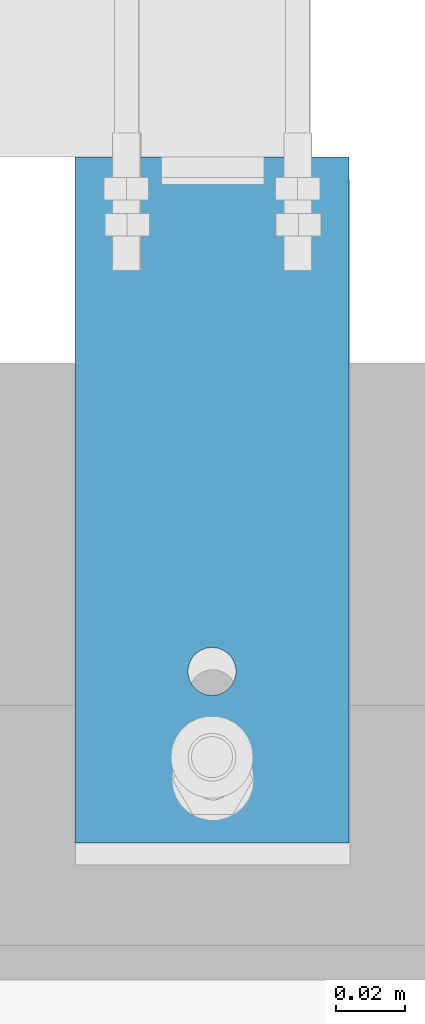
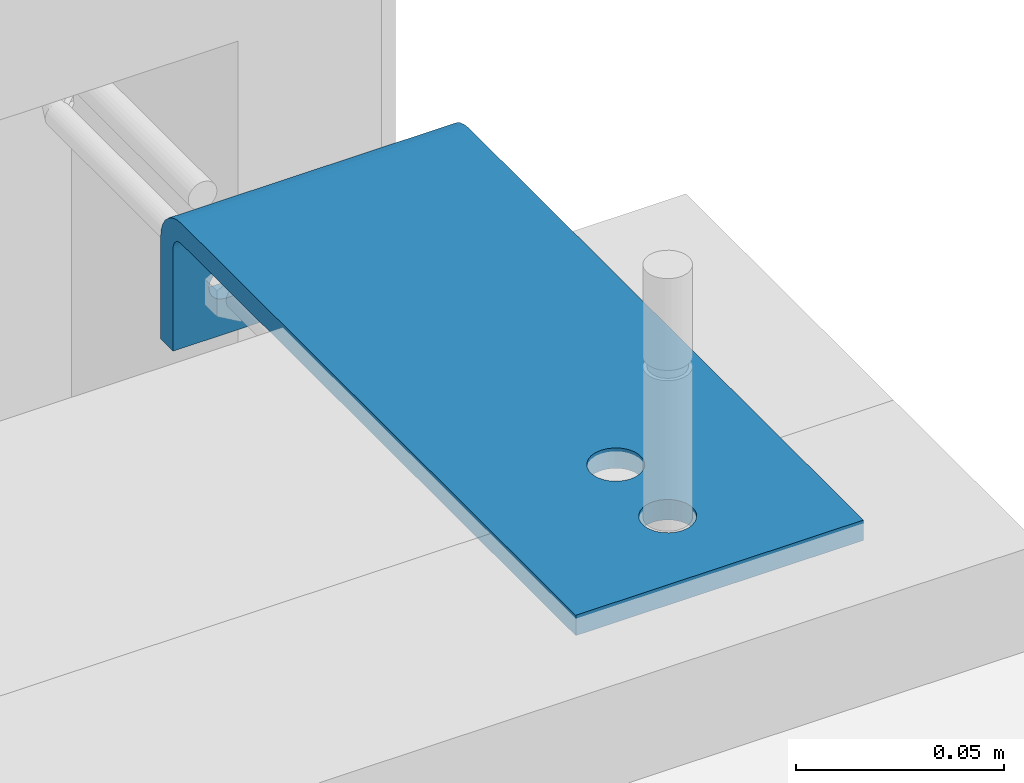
# One storey, part 11 of 13: 1 assembly, 4 openings.
"""IFC2X3 building model written with IfcOpenShell, lengths in metres."""

from ifc_helpers import new_model, entity, si_unit, converted_unit, derived_unit, direction, frame, frame_2d, origin, place, context, subcontext, project, spatial, polyline, circle_curve, parameter, trimmed, segment, composite_curve, circle, outline, extrude, source, transform, mapped, material, type_object, type_shapes, element, save


model = new_model("IFC2X3")

# Units and contexts
model_context = context("Model", 3, precision=1e-05, world=origin(), true_north=direction((6.123031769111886e-17, 1.0)))
body_context = subcontext(model_context, "Body", "Model", "MODEL_VIEW")
ifc_project = project(units=[si_unit("LENGTHUNIT", "METRE"), si_unit("AREAUNIT", "SQUARE_METRE"), converted_unit("PLANEANGLEUNIT", "DEGREE", entity("IfcPlaneAngleMeasure", 0.017453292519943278), si_unit("PLANEANGLEUNIT", "RADIAN"), dimensions=[0, 0, 0, 0, 0, 0, 0]), si_unit("VOLUMEUNIT", "CUBIC_METRE"), derived_unit("THERMALTRANSMITTANCEUNIT", [(si_unit("MASSUNIT", "GRAM", prefix="KILO"), 1), (si_unit("THERMODYNAMICTEMPERATUREUNIT", "KELVIN"), -1), (si_unit("TIMEUNIT", "SECOND"), -3)]), derived_unit("USERDEFINED", [(si_unit("MASSUNIT", "GRAM", prefix="KILO"), 1), (si_unit("THERMODYNAMICTEMPERATUREUNIT", "KELVIN"), -1), (si_unit("TIMEUNIT", "SECOND"), -2)]), derived_unit("THERMALRESISTANCEUNIT", [(si_unit("MASSUNIT", "GRAM", prefix="KILO"), -1), (si_unit("TIMEUNIT", "SECOND"), 3), (si_unit("THERMODYNAMICTEMPERATUREUNIT", "KELVIN"), 1)]), derived_unit("MASSDENSITYUNIT", [(si_unit("MASSUNIT", "GRAM", prefix="KILO"), 1), (si_unit("LENGTHUNIT", "METRE"), -3)]), derived_unit("VAPORPERMEABILITYUNIT", [(si_unit("LENGTHUNIT", "METRE"), -1), (si_unit("TIMEUNIT", "SECOND"), 1)]), derived_unit("USERDEFINED", [(si_unit("MASSUNIT", "GRAM", prefix="KILO"), 1), (si_unit("TIMEUNIT", "SECOND"), -3), (si_unit("LENGTHUNIT", "METRE"), 3), (si_unit("ELECTRICCURRENTUNIT", "AMPERE"), -2)]), si_unit("PRESSUREUNIT", "PASCAL")], contexts=[model_context])

# Site, building, storey
site_placement = place(None, origin())
site = spatial("IfcSite", under=ifc_project, at=site_placement, Name="Default", CompositionType="ELEMENT")
building_placement = place(site_placement, origin())
building = spatial("IfcBuilding", under=site, at=building_placement, CompositionType="ELEMENT")
storey_placement = place(building_placement, origin())
storey = spatial("IfcBuildingStorey", under=building, at=storey_placement, Name="L0", CompositionType="ELEMENT", Elevation=0.0)

# Assembly, openings
ifc_material = material(Name="REC_Acero, S 275JR (Zincado)")
type_product = type_object("IfcTypeProduct", Name="REC-PA200406R:PA200406R", material=ifc_material)
shared_shape = source(origin(), body_context, "Body", "SweptSolid", [
    extrude(outline(composite_curve([segment(polyline([(0.04400000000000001, -0.008), (-0.14600000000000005, -0.008)]), True, "CONTINUOUS"), segment(polyline([(-0.14600000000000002, -0.008), (-0.14600000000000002, -0.013999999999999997)]), True, "CONTINUOUS"), segment(polyline([(-0.14600000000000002, -0.013999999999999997), (0.044000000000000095, -0.014)]), True, "CONTINUOUS"), segment(trimmed(circle_curve(frame_2d((0.04400000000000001, -0.004), x_axis=(1.0, 0.0)), 0.01), [parameter(269.9999999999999)], [parameter(0.0)], True, "PARAMETER"), True, "CONTINUOUS"), segment(polyline([(0.05400000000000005, -0.003999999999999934), (0.05400000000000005, 0.02599999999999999)]), True, "CONTINUOUS"), segment(polyline([(0.05400000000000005, 0.02599999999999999), (0.04799999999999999, 0.02599999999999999)]), True, "CONTINUOUS"), segment(polyline([(0.04799999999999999, 0.02599999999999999), (0.048000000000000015, -0.003999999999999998)]), True, "CONTINUOUS"), segment(trimmed(circle_curve(frame_2d((0.04400000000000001, -0.004), x_axis=(1.0, 0.0)), 0.004), [parameter(270.00000000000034)], [parameter(3.5622212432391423e-13)], True, "PARAMETER"), False, "CONTINUOUS")], self_intersect=False)), frame((-0.04000000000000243, -0.14600000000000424, 0.013999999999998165), z_axis=(-1.0, 0.0, 0.0), x_axis=(0.0, -1.0, 0.0)), (0.0, 0.0, -1.0), 0.08000000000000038),
])
type_shapes(type_product, [shared_shape])
assembly_placement = place(storey_placement, frame((7.8162475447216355, 15.794530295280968, 2.719999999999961), z_axis=(0.0, 0.0, -1.0), x_axis=(1.0, 0.0, 0.0)))
assembly = element("IfcElementAssembly", 1, at=assembly_placement, inside=storey, type_object=type_product, material=ifc_material, Name="REC-PA200406R:PA200406R", ObjectType="REC-PA200406R:PA200406R", AssemblyPlace="NOTDEFINED", PredefinedType="NOTDEFINED", context=body_context, shape_type="MappedRepresentation", body=[
    mapped(shared_shape, transform((0.0, 0.0, 0.0), scale=1.0)),
])
opening_1_placement = place(storey_placement, frame((7.8162475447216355, 15.794530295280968, 2.719999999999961)))
element("IfcOpeningElement", 2, at=opening_1_placement, cuts=assembly, Name="REC-PA200406R:PA200406R:1", ObjectType="Opening", context=body_context, shape_type="SweptSolid", body=[
    extrude(outline(composite_curve([segment(trimmed(circle_curve(frame_2d((0.0, -0.002999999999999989), x_axis=(1.0, 0.0)), 0.0045000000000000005), [parameter(180.00000000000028)], [parameter(4.0711099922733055e-13)], True, "PARAMETER"), True, "CONTINUOUS"), segment(polyline([(0.004500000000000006, -0.0029999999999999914), (0.004499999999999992, 0.0030000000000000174)]), True, "CONTINUOUS"), segment(trimmed(circle_curve(frame_2d((0.0, 0.0030000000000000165), x_axis=(1.0, 0.0)), 0.0045000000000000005), [parameter(0.0)], [parameter(179.99999999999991)], True, "PARAMETER"), True, "CONTINUOUS"), segment(polyline([(-0.004500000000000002, 0.0030000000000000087), (-0.004499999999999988, -0.0029999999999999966)]), True, "CONTINUOUS")], self_intersect=False)), frame((0.022499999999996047, 0.20000000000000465, -0.02499999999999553), z_axis=(0.0, -1.0, 0.0), x_axis=(0.0, 0.0, -1.0)), (0.0, 0.0, 1.0), 0.006000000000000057),
])
opening_2_placement = place(storey_placement, frame((7.8162475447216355, 15.794530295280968, 2.719999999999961)))
element("IfcOpeningElement", 3, at=opening_2_placement, cuts=assembly, Name="REC-PA200406R:PA200406R:2", ObjectType="Opening", context=body_context, shape_type="SweptSolid", body=[
    extrude(outline(composite_curve([segment(trimmed(circle_curve(frame_2d((0.0, -0.002999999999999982), x_axis=(1.0, 0.0)), 0.0045000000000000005), [parameter(180.0000000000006)], [parameter(4.0711099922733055e-13)], True, "PARAMETER"), True, "CONTINUOUS"), segment(polyline([(0.004500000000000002, -0.0029999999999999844), (0.004499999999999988, 0.003000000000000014)]), True, "CONTINUOUS"), segment(trimmed(circle_curve(frame_2d((0.0, 0.0030000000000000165), x_axis=(1.0, 0.0)), 0.0045000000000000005), [parameter(0.0)], [parameter(179.99999999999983)], True, "PARAMETER"), True, "CONTINUOUS"), segment(polyline([(-0.004500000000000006, 0.0030000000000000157), (-0.004499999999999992, -0.0029999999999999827)]), True, "CONTINUOUS")], self_intersect=False)), frame((-0.022500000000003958, 0.20000000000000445, -0.024999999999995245), z_axis=(0.0, -1.0, 0.0), x_axis=(0.0, 0.0, -1.0)), (0.0, 0.0, 1.0), 0.006000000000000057),
])
opening_3_placement = place(storey_placement, frame((7.8162475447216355, 15.794530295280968, 2.719999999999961)))
element("IfcOpeningElement", 4, at=opening_3_placement, cuts=assembly, Name="REC-PA200406R:PA200406R:3", ObjectType="Opening", context=body_context, shape_type="SweptSolid", body=[
    extrude(circle(Radius=0.007, at=frame_2d((8.294912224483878e-32, -4.3949368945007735e-17), x_axis=(1.0, 0.0))), frame((0.0, 0.050000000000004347, -0.005999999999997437), z_axis=(0.0, 0.0, 1.0), x_axis=(0.0, 1.0, 0.0)), (0.0, 0.0, 1.0), 0.006),
])
opening_4_placement = place(storey_placement, frame((7.8162475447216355, 15.794530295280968, 2.719999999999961)))
element("IfcOpeningElement", 5, at=opening_4_placement, cuts=assembly, Name="REC-PA200406R:PA200406R:4", ObjectType="Opening", context=body_context, shape_type="SweptSolid", body=[
    extrude(circle(Radius=0.007, at=frame_2d((9.174985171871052e-32, -4.861230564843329e-17), x_axis=(1.0, 0.0))), frame((0.0, 0.025000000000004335, -0.005999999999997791), z_axis=(0.0, 0.0, 1.0), x_axis=(0.0, -1.0, 0.0)), (0.0, 0.0, 1.0), 0.006),
])

save(model, "model.ifc")
